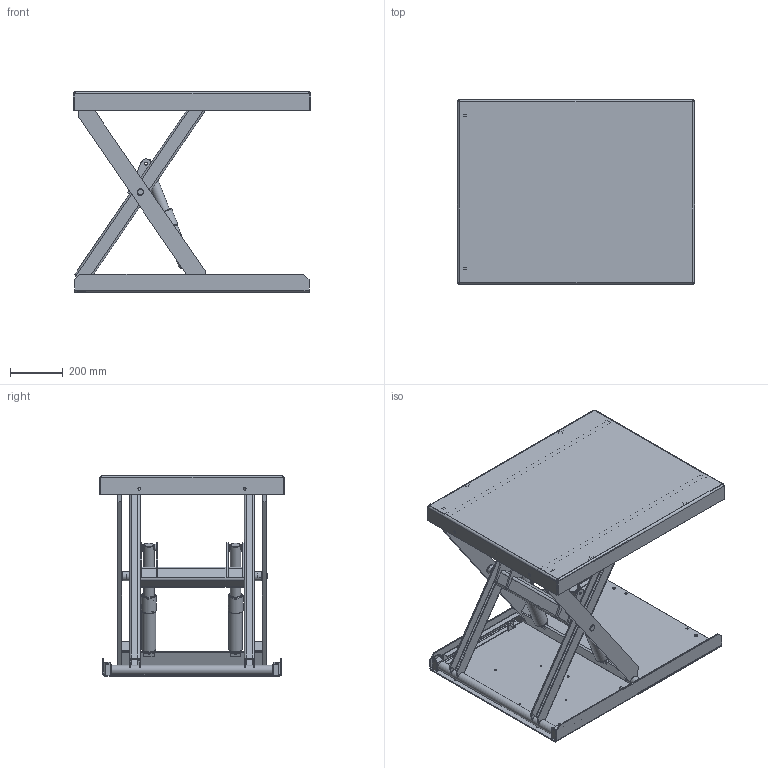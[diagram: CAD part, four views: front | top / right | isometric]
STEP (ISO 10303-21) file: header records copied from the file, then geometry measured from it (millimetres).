
FILE_DESCRIPTION(/* description */ ('CR 1000'),/* implementation_level */ '2;1');
FILE_NAME(/* name */ '\\EDMOFILE01\Users$\JOAED\Desktop\33930-Raised.stp',/* time_stamp */ '2017-04-11T12:17:28+02:00',/* author */ ('joaed'),/* organization */ (''),/* preprocessor_version */ 'ST-DEVELOPER v16.5',/* originating_system */ 'Autodesk Inventor 2017',/* authorisation */ '');
FILE_SCHEMA (('AUTOMOTIVE_DESIGN { 1 0 10303 214 3 1 1 }'));
Length unit declared in the file: millimetre
Products named in the file (42): 33930; 33931; 33932; 44263; 42288; 43342C; 83208; 33934; 44265; 82170 - 860; 44266; 44267; 80020 - 394,5; 33000; 82727; 44268; 44269; 44270; 44271; 44272; 82269; 44273; 33933; 515261; 44264; 609845; 45362; 84896; 70015; 42285; 34409; 34409_1; 44059; 34408; 44485; 44484; 44058; 43814; 85375; 600226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
Assembly tree (79 placements, depth 4):
  33930
    33931
      33932
      44263  x2
      42288  x2
      43342C  x2
      83208  x2
    42285  x6
    33934
      44265  x2
        82170 - 860
      44266  x2
      44267
        80020 - 394,5
      33000  x4
      82727  x4
      44268  x2
      44269
      44270  x2
      44271
      44272  x2
      82269  x2
      44273
    33933
      515261
      44264  x2
      609845  x2
      45362  x2
      84896  x4
    70015  x2
    34409
      44059
      34408
        44485
        44484
      44058
      43814
      85375
      600226  x2
      600227
      600228
    34409_1
      44059
      34408
        44485
        44484
      44058
      43814
      85375
      600226  x2
      600227
      600228
Bounding box: 900 x 700 x 761 mm (x, y, z)
Volume: 13488102.2 mm3; surface area: 5454009 mm2
Topology: 72 solids, 72 shells, 1282 faces, 3052 edges, 1954 vertices
Faces by surface type: plane 724, cylinder 408, cone 112, torus 30, bspline 4, sphere 4
Full cylindrical faces by diameter (mm): 5 x6, 5.4 x2, 6 x2, 6.5 x4, 6.8 x6, 7.4 x4, 8 x4, 8.566 x2, 10 x6, 10.3 x4, 10.5 x10, 11 x4, 11.63 x4, 14.63 x2, 16.2 x2, 20 x13, 20.2 x2, 21 x4, 25 x3, 25.2 x2, 28 x4, 28.2 x2, 34 x2, 34.2 x4, 35 x4, 40 x4, 40.6 x2, 42 x4, 44 x6, 45 x6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
Entity records: 23481 total; most frequent: CARTESIAN_POINT 4518, DIRECTION 3911, ORIENTED_EDGE 3408, EDGE_CURVE 1704, AXIS2_PLACEMENT_3D 1423, VERTEX_POINT 1158, LINE 1065, VECTOR 1065
